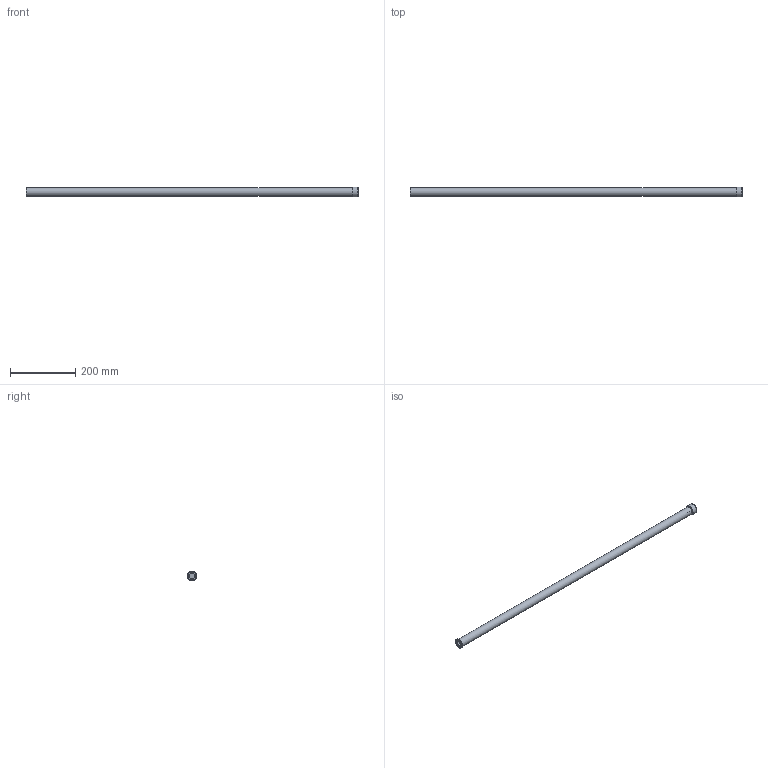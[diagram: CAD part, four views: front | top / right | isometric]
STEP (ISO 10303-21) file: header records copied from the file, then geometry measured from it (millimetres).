
FILE_DESCRIPTION( ( 'STEP AP203' ), '1' );
FILE_NAME( 'C:/Temp/Ganter_Step_05_03_2020/data/3_5/gn880_1/gn880_1_ans_abl/gn_880_1_a/Connector piece with drain hose GN 880.1-26-A-1000-T.stp', '2020-03-12T13:42:29', ( 'License CC BY-ND 4.0' ), ( 'CADENAS' ), ' ', 'PARTsolutions', ' ' );
FILE_SCHEMA( ( 'CONFIG_CONTROL_DESIGN' ) );
Length unit declared in the file: millimetre
Products named in the file (5): Connector piece with drain hose GN 880.1-26-A-1000-T; _Anschlussstueck mit Ablassschlauch GN 880.1-26-A-1000-T_a; _Anschlussstueck mit Ablassschlauch GN 880.1-26-A-1000-T_s; _Anschlussstueck mit Ablassschlauch GN 880.1-26-A-1000-T_dk; _Anschlussstueck mit Ablassschlauch GN 880.1-26-A-1000-T_dk2
Assembly tree (4 placements, depth 2):
  Connector piece with drain hose GN 880.1-26-A-1000-T
    _Anschlussstueck mit Ablassschlauch GN 880.1-26-A-1000-T_a
    _Anschlussstueck mit Ablassschlauch GN 880.1-26-A-1000-T_s
    _Anschlussstueck mit Ablassschlauch GN 880.1-26-A-1000-T_dk
    _Anschlussstueck mit Ablassschlauch GN 880.1-26-A-1000-T_dk2
Bounding box: 1020 x 30 x 30 mm (x, y, z)
Volume: 221539.4 mm3; surface area: 150511.9 mm2
Topology: 4 solids, 4 shells, 49 faces, 74 edges, 47 vertices
Faces by surface type: plane 22, cylinder 18, cone 6, torus 3
Full cylindrical faces by diameter (mm): 11.5 x1, 12.9 x1, 13 x3, 16.4 x1, 19 x7, 22 x1, 24.376 x1, 25 x1, 30 x2
Entity records: 1142 total; most frequent: DIRECTION 202, CARTESIAN_POINT 149, AXIS2_PLACEMENT_3D 101, EDGE_LOOP 94, ORIENTED_EDGE 94, FACE_OUTER_BOUND 70, ADVANCED_FACE 49, VERTEX_POINT 48
